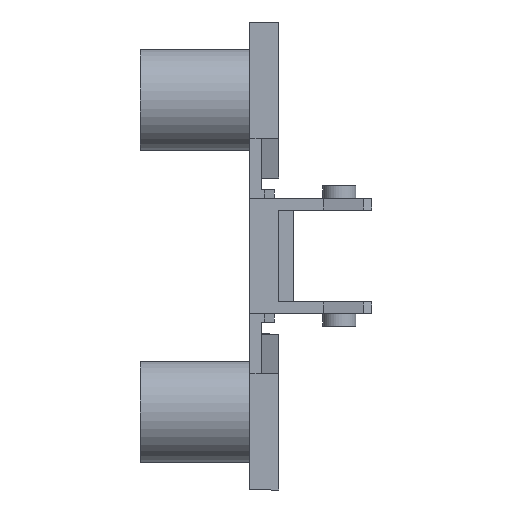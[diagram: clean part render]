
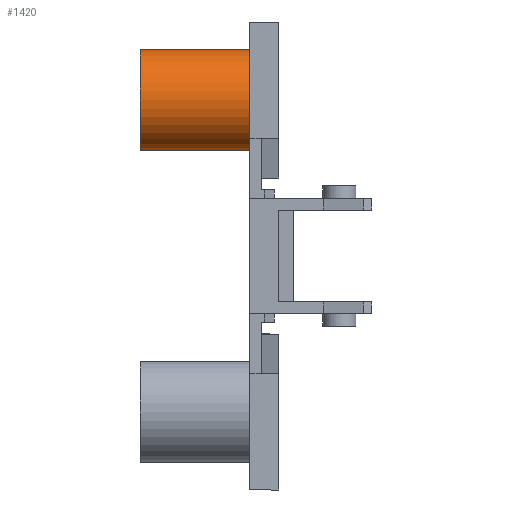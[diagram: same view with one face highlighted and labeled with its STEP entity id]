
A CAD part, front view. The second image highlights one B-rep face of the part: STEP entity #1420.
In plain terms, the highlighted cylindrical face has radius 5.2 mm (diameter 10.4 mm), a partial arc.
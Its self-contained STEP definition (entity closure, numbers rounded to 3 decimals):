
#177 = ORIENTED_EDGE ( 'NONE', *, *, #1891, .T. ) ;
#178 = ORIENTED_EDGE ( 'NONE', *, *, #1634, .T. ) ;
#179 = ORIENTED_EDGE ( 'NONE', *, *, #1720, .F. ) ;
#180 = ORIENTED_EDGE ( 'NONE', *, *, #1763, .F. ) ;
#557 = EDGE_LOOP ( 'NONE', ( #180, #179, #178, #177 ) ) ;
#791 = CYLINDRICAL_SURFACE ( 'NONE', #1752, 5.2 ) ;
#792 = FACE_OUTER_BOUND ( 'NONE', #557, .T. ) ;
#1047 = LINE ( 'NONE', #2109, #1048 ) ;
#1048 = VECTOR ( 'NONE', #2049, 1000. ) ;
#1159 = CIRCLE ( 'NONE', #1521, 5.2 ) ;
#1201 = LINE ( 'NONE', #2127, #1202 ) ;
#1202 = VECTOR ( 'NONE', #1954, 1000. ) ;
#1420 = ADVANCED_FACE ( 'NONE', ( #792 ), #791, .T. ) ;
#1521 = AXIS2_PLACEMENT_3D ( 'NONE', #1969, #1956, #2180 ) ;
#1632 = AXIS2_PLACEMENT_3D ( 'NONE', #3256, #3268, #3269 ) ;
#1634 = EDGE_CURVE ( 'NONE', #2216, #2217, #1047, .T. ) ;
#1720 = EDGE_CURVE ( 'NONE', #2216, #2215, #1159, .T. ) ;
#1752 = AXIS2_PLACEMENT_3D ( 'NONE', #2741, #2733, #2736 ) ;
#1763 = EDGE_CURVE ( 'NONE', #2215, #2211, #1201, .T. ) ;
#1891 = EDGE_CURVE ( 'NONE', #2217, #2211, #3067, .T. ) ;
#1954 = DIRECTION ( 'NONE',  ( 1., 0., 0. ) ) ;
#1956 = DIRECTION ( 'NONE',  ( -1., 0., 0. ) ) ;
#1969 = CARTESIAN_POINT ( 'NONE',  ( -11.2, 0., 16. ) ) ;
#2049 = DIRECTION ( 'NONE',  ( 1., 0., 0. ) ) ;
#2109 = CARTESIAN_POINT ( 'NONE',  ( -11.2, 0., 10.8 ) ) ;
#2127 = CARTESIAN_POINT ( 'NONE',  ( -11.2, 0., 21.2 ) ) ;
#2180 = DIRECTION ( 'NONE',  ( 0., 0., 1. ) ) ;
#2211 = VERTEX_POINT ( 'NONE', #3340 ) ;
#2215 = VERTEX_POINT ( 'NONE', #3343 ) ;
#2216 = VERTEX_POINT ( 'NONE', #3344 ) ;
#2217 = VERTEX_POINT ( 'NONE', #3345 ) ;
#2733 = DIRECTION ( 'NONE',  ( 1., 0., 0. ) ) ;
#2736 = DIRECTION ( 'NONE',  ( 0., 0., -1. ) ) ;
#2741 = CARTESIAN_POINT ( 'NONE',  ( -11.2, 0., 16. ) ) ;
#3067 = CIRCLE ( 'NONE', #1632, 5.2 ) ;
#3256 = CARTESIAN_POINT ( 'NONE',  ( 0., 0., 16. ) ) ;
#3268 = DIRECTION ( 'NONE',  ( -1., 0., 0. ) ) ;
#3269 = DIRECTION ( 'NONE',  ( 0., 0., -1. ) ) ;
#3340 = CARTESIAN_POINT ( 'NONE',  ( 0., 0., 21.2 ) ) ;
#3343 = CARTESIAN_POINT ( 'NONE',  ( -11.2, 0., 21.2 ) ) ;
#3344 = CARTESIAN_POINT ( 'NONE',  ( -11.2, 0., 10.8 ) ) ;
#3345 = CARTESIAN_POINT ( 'NONE',  ( 0., 0., 10.8 ) ) ;
